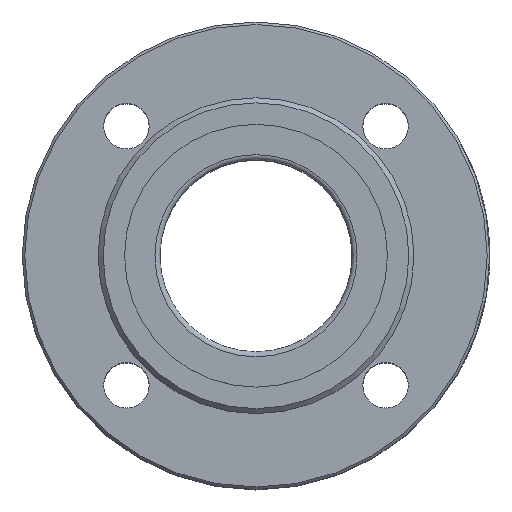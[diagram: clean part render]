
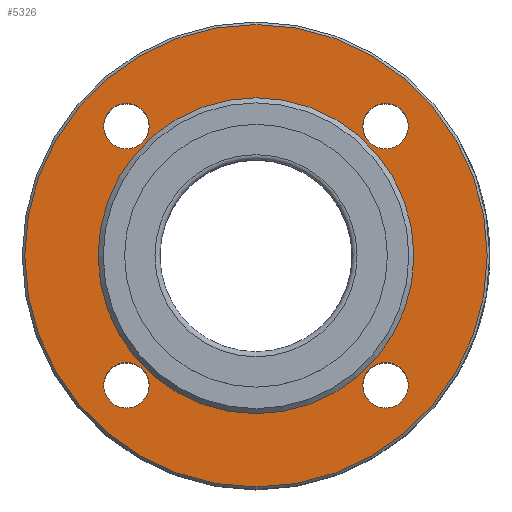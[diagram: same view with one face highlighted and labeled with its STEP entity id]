
A CAD part, top view. The second image highlights one B-rep face of the part: STEP entity #5326.
In plain terms, the highlighted planar face has unit normal (0, 0, 1).
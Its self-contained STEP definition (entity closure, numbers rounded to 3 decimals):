
#1044=FACE_BOUND('',#1760,.T.);
#1045=FACE_BOUND('',#1761,.T.);
#1046=FACE_BOUND('',#1762,.T.);
#1047=FACE_BOUND('',#1763,.T.);
#1048=FACE_BOUND('',#1764,.T.);
#1178=PLANE('',#5747);
#1438=FACE_OUTER_BOUND('',#1759,.T.);
#1759=EDGE_LOOP('',(#4558));
#1760=EDGE_LOOP('',(#4559));
#1761=EDGE_LOOP('',(#4560));
#1762=EDGE_LOOP('',(#4561));
#1763=EDGE_LOOP('',(#4562));
#1764=EDGE_LOOP('',(#4563));
#2003=CIRCLE('',#5745,91.5);
#2004=CIRCLE('',#5748,9.);
#2005=CIRCLE('',#5749,9.);
#2006=CIRCLE('',#5750,9.);
#2007=CIRCLE('',#5751,9.);
#2008=CIRCLE('',#5752,62.5);
#2508=VERTEX_POINT('',#11471);
#2509=VERTEX_POINT('',#11476);
#2510=VERTEX_POINT('',#11478);
#2511=VERTEX_POINT('',#11480);
#2512=VERTEX_POINT('',#11482);
#2513=VERTEX_POINT('',#11484);
#3200=EDGE_CURVE('',#2508,#2508,#2003,.T.);
#3202=EDGE_CURVE('',#2509,#2509,#2004,.T.);
#3203=EDGE_CURVE('',#2510,#2510,#2005,.T.);
#3204=EDGE_CURVE('',#2511,#2511,#2006,.T.);
#3205=EDGE_CURVE('',#2512,#2512,#2007,.T.);
#3206=EDGE_CURVE('',#2513,#2513,#2008,.T.);
#4558=ORIENTED_EDGE('',*,*,#3200,.T.);
#4559=ORIENTED_EDGE('',*,*,#3202,.F.);
#4560=ORIENTED_EDGE('',*,*,#3203,.F.);
#4561=ORIENTED_EDGE('',*,*,#3204,.F.);
#4562=ORIENTED_EDGE('',*,*,#3205,.F.);
#4563=ORIENTED_EDGE('',*,*,#3206,.F.);
#5326=ADVANCED_FACE('',(#1438,#1044,#1045,#1046,#1047,#1048),#1178,.F.);
#5745=AXIS2_PLACEMENT_3D('',#11472,#6854,#6855);
#5747=AXIS2_PLACEMENT_3D('',#11475,#6859,#6860);
#5748=AXIS2_PLACEMENT_3D('',#11477,#6861,#6862);
#5749=AXIS2_PLACEMENT_3D('',#11479,#6863,#6864);
#5750=AXIS2_PLACEMENT_3D('',#11481,#6865,#6866);
#5751=AXIS2_PLACEMENT_3D('',#11483,#6867,#6868);
#5752=AXIS2_PLACEMENT_3D('',#11485,#6869,#6870);
#6854=DIRECTION('center_axis',(0.,0.,1.));
#6855=DIRECTION('ref_axis',(0.,-1.,0.));
#6859=DIRECTION('center_axis',(0.,0.,-1.));
#6860=DIRECTION('ref_axis',(-1.,0.,0.));
#6861=DIRECTION('center_axis',(0.,0.,1.));
#6862=DIRECTION('ref_axis',(-1.,0.,0.));
#6863=DIRECTION('center_axis',(0.,0.,1.));
#6864=DIRECTION('ref_axis',(-1.,0.,0.));
#6865=DIRECTION('center_axis',(0.,0.,1.));
#6866=DIRECTION('ref_axis',(-1.,0.,0.));
#6867=DIRECTION('center_axis',(0.,0.,1.));
#6868=DIRECTION('ref_axis',(-1.,0.,0.));
#6869=DIRECTION('center_axis',(0.,0.,1.));
#6870=DIRECTION('ref_axis',(-1.,0.,0.));
#11471=CARTESIAN_POINT('',(0.,91.5,55.));
#11472=CARTESIAN_POINT('Origin',(0.,0.,55.));
#11475=CARTESIAN_POINT('Origin',(0.,38.,55.));
#11476=CARTESIAN_POINT('',(-42.265,51.265,55.));
#11477=CARTESIAN_POINT('Origin',(-51.265,51.265,55.));
#11478=CARTESIAN_POINT('',(60.265,-51.265,55.));
#11479=CARTESIAN_POINT('Origin',(51.265,-51.265,55.));
#11480=CARTESIAN_POINT('',(60.265,51.265,55.));
#11481=CARTESIAN_POINT('Origin',(51.265,51.265,55.));
#11482=CARTESIAN_POINT('',(-42.265,-51.265,55.));
#11483=CARTESIAN_POINT('Origin',(-51.265,-51.265,55.));
#11484=CARTESIAN_POINT('',(-62.5,0.,55.));
#11485=CARTESIAN_POINT('Origin',(0.,0.,55.));
